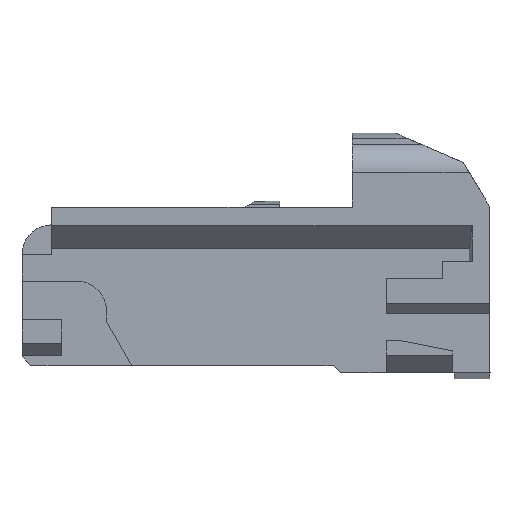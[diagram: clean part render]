
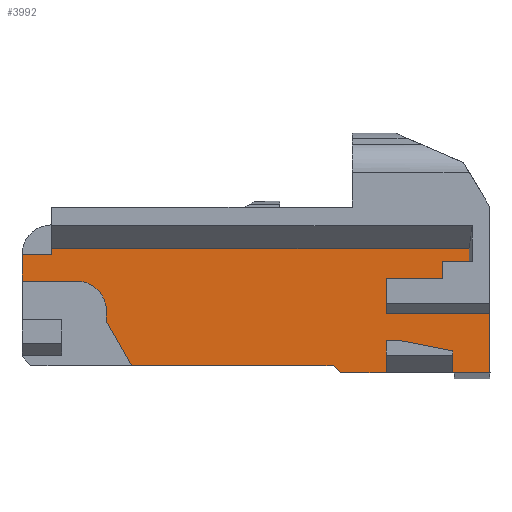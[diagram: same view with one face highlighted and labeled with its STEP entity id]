
A CAD part, front view. The second image highlights one B-rep face of the part: STEP entity #3992.
In plain terms, the highlighted planar face has unit normal (0, -1, 0).
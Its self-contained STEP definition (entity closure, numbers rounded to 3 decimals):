
#2031=AXIS2_PLACEMENT_3D('Circle Axis2P3D',#2029,#2030,$) ;
#3890=AXIS2_PLACEMENT_3D('Plane Axis2P3D',#3887,#3888,#3889) ;
#1923=CARTESIAN_POINT('Vertex',(10.5,-5.55,0.)) ;
#1928=CARTESIAN_POINT('Line Origine',(7.1,-5.55,0.)) ;
#1932=CARTESIAN_POINT('Vertex',(3.7,-5.55,0.)) ;
#1977=CARTESIAN_POINT('Line Origine',(3.275,-5.55,0.75)) ;
#1981=CARTESIAN_POINT('Vertex',(2.85,-5.55,1.5)) ;
#2003=CARTESIAN_POINT('Line Origine',(2.85,-5.55,1.675)) ;
#2007=CARTESIAN_POINT('Vertex',(2.85,-5.55,1.85)) ;
#2029=CARTESIAN_POINT('Axis2P3D Location',(1.85,-5.55,1.85)) ;
#2033=CARTESIAN_POINT('Vertex',(1.85,-5.55,2.85)) ;
#2071=CARTESIAN_POINT('Vertex',(10.75,-5.55,-0.25)) ;
#2074=CARTESIAN_POINT('Line Origine',(10.625,-5.55,-0.125)) ;
#2091=CARTESIAN_POINT('Line Origine',(12.375,-5.55,0.669)) ;
#2095=CARTESIAN_POINT('Vertex',(12.3,-5.55,0.669)) ;
#2097=CARTESIAN_POINT('Vertex',(12.732,-5.55,0.669)) ;
#2120=CARTESIAN_POINT('Vertex',(14.55,-5.55,-0.25)) ;
#2123=CARTESIAN_POINT('Line Origine',(14.55,-5.55,0.033)) ;
#2127=CARTESIAN_POINT('Vertex',(14.55,-5.55,0.316)) ;
#2148=CARTESIAN_POINT('Line Origine',(13.767,-5.55,0.468)) ;
#2160=CARTESIAN_POINT('Line Origine',(12.3,-5.55,0.21)) ;
#2164=CARTESIAN_POINT('Vertex',(12.3,-5.55,-0.25)) ;
#2468=CARTESIAN_POINT('Vertex',(15.1,-5.55,2.763)) ;
#2471=CARTESIAN_POINT('Line Origine',(15.1,-5.55,2.035)) ;
#2475=CARTESIAN_POINT('Vertex',(15.1,-5.55,2.742)) ;
#2488=CARTESIAN_POINT('Line Origine',(14.65,-5.55,2.763)) ;
#2492=CARTESIAN_POINT('Vertex',(14.2,-5.55,2.763)) ;
#3017=CARTESIAN_POINT('Line Origine',(0.925,-5.55,2.85)) ;
#3021=CARTESIAN_POINT('Vertex',(0.,-5.55,2.85)) ;
#3728=CARTESIAN_POINT('Vertex',(15.8,-5.55,-0.25)) ;
#3731=CARTESIAN_POINT('Line Origine',(15.175,-5.55,-0.25)) ;
#3736=CARTESIAN_POINT('Line Origine',(11.525,-5.55,-0.25)) ;
#3887=CARTESIAN_POINT('Axis2P3D Location',(0.,-5.55,3.95)) ;
#3892=CARTESIAN_POINT('Line Origine',(14.2,-5.55,3.136)) ;
#3896=CARTESIAN_POINT('Vertex',(14.2,-5.55,3.51)) ;
#3899=CARTESIAN_POINT('Line Origine',(14.65,-5.55,3.51)) ;
#3903=CARTESIAN_POINT('Vertex',(15.1,-5.55,3.51)) ;
#3906=CARTESIAN_POINT('Line Origine',(15.1,-5.55,3.73)) ;
#3910=CARTESIAN_POINT('Vertex',(15.1,-5.55,3.95)) ;
#3913=CARTESIAN_POINT('Line Origine',(8.05,-5.55,3.95)) ;
#3917=CARTESIAN_POINT('Vertex',(1.,-5.55,3.95)) ;
#3920=CARTESIAN_POINT('Line Origine',(1.,-5.55,3.85)) ;
#3924=CARTESIAN_POINT('Vertex',(1.,-5.55,3.75)) ;
#3927=CARTESIAN_POINT('Line Origine',(0.5,-5.55,3.75)) ;
#3931=CARTESIAN_POINT('Vertex',(0.,-5.55,3.75)) ;
#3934=CARTESIAN_POINT('Line Origine',(0.,-5.55,3.3)) ;
#3939=CARTESIAN_POINT('Line Origine',(15.8,-5.55,0.75)) ;
#3943=CARTESIAN_POINT('Vertex',(15.8,-5.55,1.75)) ;
#3946=CARTESIAN_POINT('Line Origine',(14.05,-5.55,1.75)) ;
#3950=CARTESIAN_POINT('Vertex',(12.3,-5.55,1.75)) ;
#3953=CARTESIAN_POINT('Line Origine',(12.3,-5.55,2.246)) ;
#3957=CARTESIAN_POINT('Vertex',(12.3,-5.55,2.742)) ;
#3960=CARTESIAN_POINT('Line Origine',(13.7,-5.55,2.742)) ;
#1929=DIRECTION('Vector Direction',(1.,0.,0.)) ;
#1978=DIRECTION('Vector Direction',(0.493,0.,-0.87)) ;
#2004=DIRECTION('Vector Direction',(0.,0.,-1.)) ;
#2030=DIRECTION('Axis2P3D Direction',(0.,-1.,0.)) ;
#2075=DIRECTION('Vector Direction',(-0.707,0.,0.707)) ;
#2092=DIRECTION('Vector Direction',(-1.,0.,0.)) ;
#2124=DIRECTION('Vector Direction',(0.,0.,1.)) ;
#2149=DIRECTION('Vector Direction',(-0.982,0.,0.191)) ;
#2161=DIRECTION('Vector Direction',(0.,0.,-1.)) ;
#2472=DIRECTION('Vector Direction',(0.,0.,-1.)) ;
#2489=DIRECTION('Vector Direction',(-1.,0.,0.)) ;
#3018=DIRECTION('Vector Direction',(1.,0.,0.)) ;
#3732=DIRECTION('Vector Direction',(-1.,0.,0.)) ;
#3737=DIRECTION('Vector Direction',(-1.,0.,0.)) ;
#3888=DIRECTION('Axis2P3D Direction',(0.,1.,0.)) ;
#3889=DIRECTION('Axis2P3D XDirection',(0.,0.,-1.)) ;
#3893=DIRECTION('Vector Direction',(0.,0.,-1.)) ;
#3900=DIRECTION('Vector Direction',(-1.,0.,0.)) ;
#3907=DIRECTION('Vector Direction',(0.,0.,-1.)) ;
#3914=DIRECTION('Vector Direction',(-1.,0.,0.)) ;
#3921=DIRECTION('Vector Direction',(0.,0.,1.)) ;
#3928=DIRECTION('Vector Direction',(1.,0.,0.)) ;
#3935=DIRECTION('Vector Direction',(0.,0.,1.)) ;
#3940=DIRECTION('Vector Direction',(0.,0.,1.)) ;
#3947=DIRECTION('Vector Direction',(1.,0.,0.)) ;
#3954=DIRECTION('Vector Direction',(0.,0.,-1.)) ;
#3961=DIRECTION('Vector Direction',(1.,0.,0.)) ;
#1930=VECTOR('Line Direction',#1929,1.) ;
#1979=VECTOR('Line Direction',#1978,1.) ;
#2005=VECTOR('Line Direction',#2004,1.) ;
#2076=VECTOR('Line Direction',#2075,1.) ;
#2093=VECTOR('Line Direction',#2092,1.) ;
#2125=VECTOR('Line Direction',#2124,1.) ;
#2150=VECTOR('Line Direction',#2149,1.) ;
#2162=VECTOR('Line Direction',#2161,1.) ;
#2473=VECTOR('Line Direction',#2472,1.) ;
#2490=VECTOR('Line Direction',#2489,1.) ;
#3019=VECTOR('Line Direction',#3018,1.) ;
#3733=VECTOR('Line Direction',#3732,1.) ;
#3738=VECTOR('Line Direction',#3737,1.) ;
#3894=VECTOR('Line Direction',#3893,1.) ;
#3901=VECTOR('Line Direction',#3900,1.) ;
#3908=VECTOR('Line Direction',#3907,1.) ;
#3915=VECTOR('Line Direction',#3914,1.) ;
#3922=VECTOR('Line Direction',#3921,1.) ;
#3929=VECTOR('Line Direction',#3928,1.) ;
#3936=VECTOR('Line Direction',#3935,1.) ;
#3941=VECTOR('Line Direction',#3940,1.) ;
#3948=VECTOR('Line Direction',#3947,1.) ;
#3955=VECTOR('Line Direction',#3954,1.) ;
#3962=VECTOR('Line Direction',#3961,1.) ;
#3966=ORIENTED_EDGE('',*,*,#2494,.T.) ;
#3967=ORIENTED_EDGE('',*,*,#3898,.F.) ;
#3968=ORIENTED_EDGE('',*,*,#3905,.F.) ;
#3969=ORIENTED_EDGE('',*,*,#3912,.F.) ;
#3970=ORIENTED_EDGE('',*,*,#3919,.T.) ;
#3971=ORIENTED_EDGE('',*,*,#3926,.F.) ;
#3972=ORIENTED_EDGE('',*,*,#3933,.F.) ;
#3973=ORIENTED_EDGE('',*,*,#3938,.F.) ;
#3974=ORIENTED_EDGE('',*,*,#3023,.F.) ;
#3975=ORIENTED_EDGE('',*,*,#2035,.F.) ;
#3976=ORIENTED_EDGE('',*,*,#2009,.F.) ;
#3977=ORIENTED_EDGE('',*,*,#1983,.F.) ;
#3978=ORIENTED_EDGE('',*,*,#1934,.T.) ;
#3979=ORIENTED_EDGE('',*,*,#2078,.F.) ;
#3980=ORIENTED_EDGE('',*,*,#3740,.F.) ;
#3981=ORIENTED_EDGE('',*,*,#2166,.F.) ;
#3982=ORIENTED_EDGE('',*,*,#2099,.T.) ;
#3983=ORIENTED_EDGE('',*,*,#2152,.T.) ;
#3984=ORIENTED_EDGE('',*,*,#2129,.F.) ;
#3985=ORIENTED_EDGE('',*,*,#3735,.F.) ;
#3986=ORIENTED_EDGE('',*,*,#3945,.T.) ;
#3987=ORIENTED_EDGE('',*,*,#3952,.F.) ;
#3988=ORIENTED_EDGE('',*,*,#3959,.F.) ;
#3989=ORIENTED_EDGE('',*,*,#3964,.T.) ;
#3990=ORIENTED_EDGE('',*,*,#2477,.F.) ;
#3992=ADVANCED_FACE('Upper_body',(#3991),#3891,.F.) ;
#2032=CIRCLE('generated circle',#2031,1.) ;
#1934=EDGE_CURVE('',#1933,#1924,#1931,.T.) ;
#1983=EDGE_CURVE('',#1933,#1982,#1980,.F.) ;
#2009=EDGE_CURVE('',#1982,#2008,#2006,.F.) ;
#2035=EDGE_CURVE('',#2008,#2034,#2032,.T.) ;
#2078=EDGE_CURVE('',#2072,#1924,#2077,.T.) ;
#2099=EDGE_CURVE('',#2096,#2098,#2094,.F.) ;
#2129=EDGE_CURVE('',#2121,#2128,#2126,.T.) ;
#2152=EDGE_CURVE('',#2098,#2128,#2151,.F.) ;
#2166=EDGE_CURVE('',#2096,#2165,#2163,.T.) ;
#2477=EDGE_CURVE('',#2469,#2476,#2474,.T.) ;
#2494=EDGE_CURVE('',#2469,#2493,#2491,.T.) ;
#3023=EDGE_CURVE('',#2034,#3022,#3020,.F.) ;
#3735=EDGE_CURVE('',#3729,#2121,#3734,.T.) ;
#3740=EDGE_CURVE('',#2165,#2072,#3739,.T.) ;
#3898=EDGE_CURVE('',#3897,#2493,#3895,.T.) ;
#3905=EDGE_CURVE('',#3904,#3897,#3902,.T.) ;
#3912=EDGE_CURVE('',#3911,#3904,#3909,.T.) ;
#3919=EDGE_CURVE('',#3911,#3918,#3916,.T.) ;
#3926=EDGE_CURVE('',#3925,#3918,#3923,.T.) ;
#3933=EDGE_CURVE('',#3932,#3925,#3930,.T.) ;
#3938=EDGE_CURVE('',#3022,#3932,#3937,.T.) ;
#3945=EDGE_CURVE('',#3729,#3944,#3942,.T.) ;
#3952=EDGE_CURVE('',#3951,#3944,#3949,.T.) ;
#3959=EDGE_CURVE('',#3958,#3951,#3956,.T.) ;
#3964=EDGE_CURVE('',#3958,#2476,#3963,.T.) ;
#3965=EDGE_LOOP('',(#3966,#3967,#3968,#3969,#3970,#3971,#3972,#3973,#3974,#3975,#3976,#3977,#3978,#3979,#3980,#3981,#3982,#3983,#3984,#3985,#3986,#3987,#3988,#3989,#3990)) ;
#3991=FACE_OUTER_BOUND('',#3965,.T.) ;
#1931=LINE('Line',#1928,#1930) ;
#1980=LINE('Line',#1977,#1979) ;
#2006=LINE('Line',#2003,#2005) ;
#2077=LINE('Line',#2074,#2076) ;
#2094=LINE('Line',#2091,#2093) ;
#2126=LINE('Line',#2123,#2125) ;
#2151=LINE('Line',#2148,#2150) ;
#2163=LINE('Line',#2160,#2162) ;
#2474=LINE('Line',#2471,#2473) ;
#2491=LINE('Line',#2488,#2490) ;
#3020=LINE('Line',#3017,#3019) ;
#3734=LINE('Line',#3731,#3733) ;
#3739=LINE('Line',#3736,#3738) ;
#3895=LINE('Line',#3892,#3894) ;
#3902=LINE('Line',#3899,#3901) ;
#3909=LINE('Line',#3906,#3908) ;
#3916=LINE('Line',#3913,#3915) ;
#3923=LINE('Line',#3920,#3922) ;
#3930=LINE('Line',#3927,#3929) ;
#3937=LINE('Line',#3934,#3936) ;
#3942=LINE('Line',#3939,#3941) ;
#3949=LINE('Line',#3946,#3948) ;
#3956=LINE('Line',#3953,#3955) ;
#3963=LINE('Line',#3960,#3962) ;
#3891=PLANE('',#3890) ;
#1924=VERTEX_POINT('',#1923) ;
#1933=VERTEX_POINT('',#1932) ;
#1982=VERTEX_POINT('',#1981) ;
#2008=VERTEX_POINT('',#2007) ;
#2034=VERTEX_POINT('',#2033) ;
#2072=VERTEX_POINT('',#2071) ;
#2096=VERTEX_POINT('',#2095) ;
#2098=VERTEX_POINT('',#2097) ;
#2121=VERTEX_POINT('',#2120) ;
#2128=VERTEX_POINT('',#2127) ;
#2165=VERTEX_POINT('',#2164) ;
#2469=VERTEX_POINT('',#2468) ;
#2476=VERTEX_POINT('',#2475) ;
#2493=VERTEX_POINT('',#2492) ;
#3022=VERTEX_POINT('',#3021) ;
#3729=VERTEX_POINT('',#3728) ;
#3897=VERTEX_POINT('',#3896) ;
#3904=VERTEX_POINT('',#3903) ;
#3911=VERTEX_POINT('',#3910) ;
#3918=VERTEX_POINT('',#3917) ;
#3925=VERTEX_POINT('',#3924) ;
#3932=VERTEX_POINT('',#3931) ;
#3944=VERTEX_POINT('',#3943) ;
#3951=VERTEX_POINT('',#3950) ;
#3958=VERTEX_POINT('',#3957) ;
